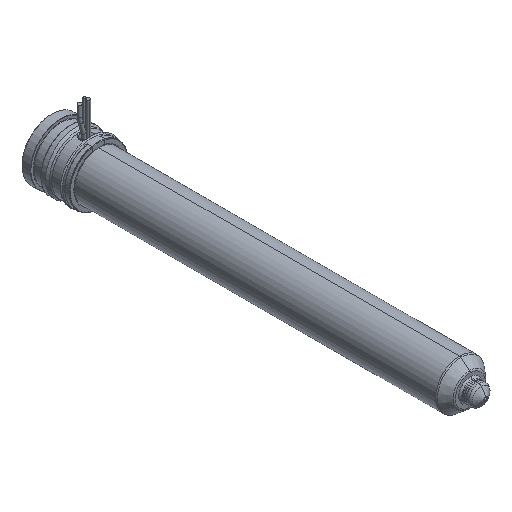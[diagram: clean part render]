
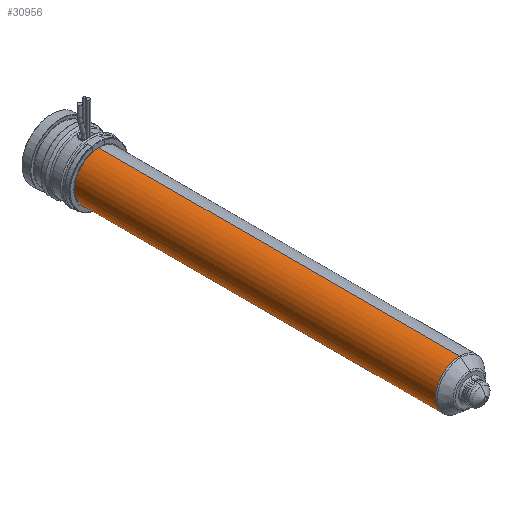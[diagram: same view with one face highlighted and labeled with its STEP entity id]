
A CAD part, isometric view. The second image highlights one B-rep face of the part: STEP entity #30956.
In plain terms, the highlighted cylindrical face has radius 12 mm (diameter 24 mm), a partial arc.
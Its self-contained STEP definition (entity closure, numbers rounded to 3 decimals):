
#30441=CARTESIAN_POINT('',(0.,-24.,0.));
#30442=DIRECTION('',(0.,1.,0.));
#30443=DIRECTION('',(0.,0.,-1.));
#30444=AXIS2_PLACEMENT_3D('',#30441,#30442,#30443);
#30449=DIRECTION('',(0.,1.,0.));
#30450=VECTOR('',#30449,179.736);
#30451=CARTESIAN_POINT('',(0.,-203.736,12.));
#30452=LINE('',#30451,#30450);
#30464=DIRECTION('',(0.,1.,0.));
#30465=VECTOR('',#30464,179.736);
#30466=CARTESIAN_POINT('',(0.,-203.736,-12.));
#30467=LINE('',#30466,#30465);
#30495=CARTESIAN_POINT('',(0.,-203.736,0.));
#30496=DIRECTION('',(0.,-1.,0.));
#30497=DIRECTION('',(0.,0.,1.));
#30498=AXIS2_PLACEMENT_3D('',#30495,#30496,#30497);
#30825=CARTESIAN_POINT('',(0.,-203.736,12.));
#30826=CARTESIAN_POINT('',(0.,-24.,12.));
#30827=VERTEX_POINT('',#30825);
#30828=VERTEX_POINT('',#30826);
#30829=CARTESIAN_POINT('',(0.,-203.736,-12.));
#30830=CARTESIAN_POINT('',(0.,-24.,-12.));
#30831=VERTEX_POINT('',#30829);
#30832=VERTEX_POINT('',#30830);
#30942=CARTESIAN_POINT('',(0.,-10.125,0.));
#30943=DIRECTION('',(0.,-1.,0.));
#30944=DIRECTION('',(0.,0.,1.));
#30945=AXIS2_PLACEMENT_3D('',#30942,#30943,#30944);
#30946=CYLINDRICAL_SURFACE('',#30945,12.);
#30948=ORIENTED_EDGE('',*,*,#30947,.F.);
#30950=ORIENTED_EDGE('',*,*,#30949,.T.);
#30952=ORIENTED_EDGE('',*,*,#30951,.T.);
#30953=ORIENTED_EDGE('',*,*,#30935,.T.);
#30954=EDGE_LOOP('',(#30948,#30950,#30952,#30953));
#30955=FACE_OUTER_BOUND('',#30954,.F.);
#30956=ADVANCED_FACE('',(#30955),#30946,.T.);
#30445=CIRCLE('',#30444,12.);
#30499=CIRCLE('',#30498,12.);
#30935=EDGE_CURVE('',#30832,#30828,#30445,.T.);
#30947=EDGE_CURVE('',#30827,#30828,#30452,.T.);
#30949=EDGE_CURVE('',#30827,#30831,#30499,.T.);
#30951=EDGE_CURVE('',#30831,#30832,#30467,.T.);
